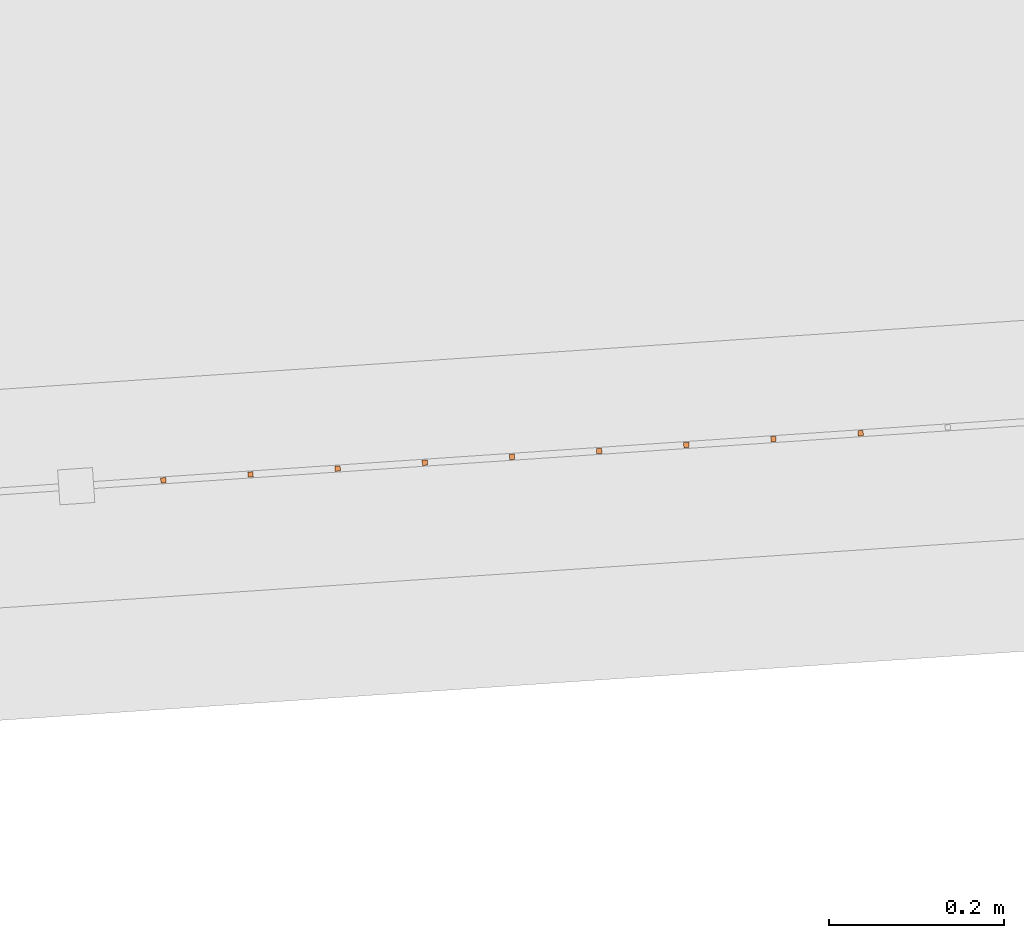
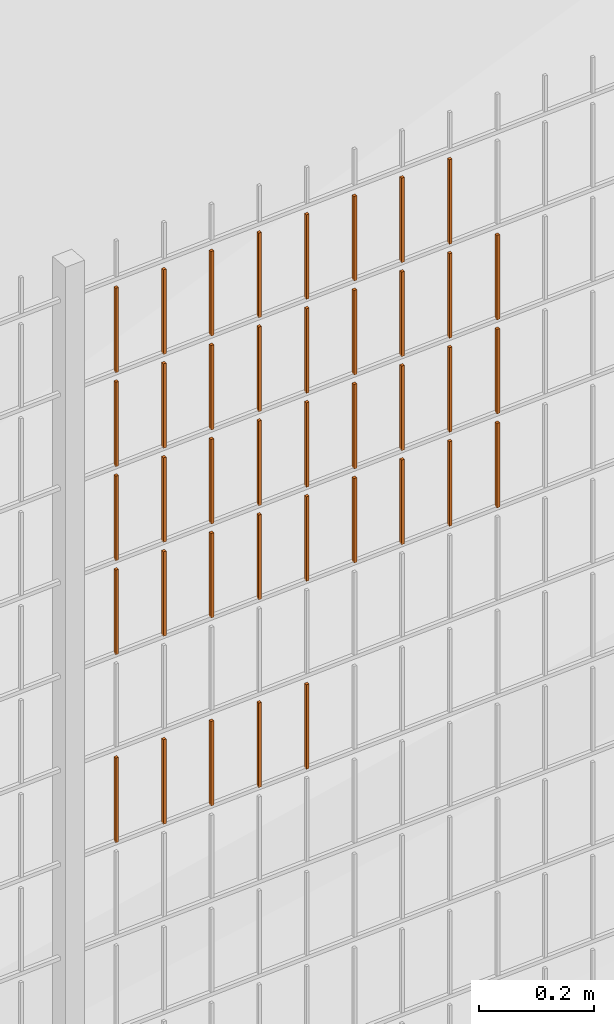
# One storey, part 84 of 1809: 40 proxies, 1 element without a shape of its own.
"""IFC2X3 building model written with IfcOpenShell, lengths in millimetres."""

from ifc_helpers import new_model, entity, si_unit, converted_unit, derived_unit, money_unit, direction, frame, origin_with_axes, place, context, subcontext, project, spatial, faceted_brep, source, transform, mapped, material, type_object, element, aggregate, save


model = new_model("IFC2X3")

# Units and contexts
model_context = context("Model", 3, precision=0.01, world=origin_with_axes(), true_north=direction((0.0, 1.0)))
body_context = subcontext(model_context, "Body", "Model", "MODEL_VIEW")
ifc_project = project(units=[si_unit("LENGTHUNIT", "METRE", prefix="MILLI"), si_unit("AREAUNIT", "SQUARE_METRE"), si_unit("VOLUMEUNIT", "CUBIC_METRE"), converted_unit("PLANEANGLEUNIT", "DEGREE", entity("IfcPlaneAngleMeasure", 0.0174532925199), si_unit("PLANEANGLEUNIT", "RADIAN"), dimensions=[0, 0, 0, 0, 0, 0, 0]), si_unit("SOLIDANGLEUNIT", "STERADIAN"), money_unit("EUR"), converted_unit("TIMEUNIT", "Year", entity("IfcTimeMeasure", 31556926.0), si_unit("TIMEUNIT", "SECOND"), dimensions=[0, 0, 1, 0, 0, 0, 0]), si_unit("MASSUNIT", "GRAM", prefix="KILO"), si_unit("THERMODYNAMICTEMPERATUREUNIT", "DEGREE_CELSIUS"), si_unit("LUMINOUSINTENSITYUNIT", "LUMEN"), si_unit("ENERGYUNIT", "JOULE", prefix="MEGA"), derived_unit("THERMALCONDUCTANCEUNIT", [(si_unit("POWERUNIT", "WATT"), 1), (si_unit("LENGTHUNIT", "METRE"), -1), (si_unit("THERMODYNAMICTEMPERATUREUNIT", "KELVIN"), -1)]), derived_unit("SPECIFICHEATCAPACITYUNIT", [(si_unit("ENERGYUNIT", "JOULE"), 1), (si_unit("MASSUNIT", "GRAM", prefix="KILO"), -1), (si_unit("THERMODYNAMICTEMPERATUREUNIT", "KELVIN"), -1)]), derived_unit("MASSDENSITYUNIT", [(si_unit("MASSUNIT", "GRAM", prefix="KILO"), 1), (si_unit("VOLUMEUNIT", "CUBIC_METRE"), -1)])], contexts=[model_context])

# Site, building, storey
site_placement = place(None, origin_with_axes())
site = spatial("IfcSite", under=ifc_project, at=site_placement, Name="Politse- ja Piirivalveameti ning Päästeameti ühishoone", CompositionType="ELEMENT")
building_placement = place(site_placement, origin_with_axes())
building = spatial("IfcBuilding", under=site, at=building_placement, Name="Politse- ja Piirivalveameti ning Päästeameti ühishoone", CompositionType="ELEMENT")
storey_placement = place(building_placement, origin_with_axes())
storey = spatial("IfcBuildingStorey", under=building, at=storey_placement, Name="Esimene korrus", CompositionType="ELEMENT", Elevation=0.0)

# Proxies
building_element_proxy_type_1 = type_object("IfcBuildingElementProxyType", Name="Railing Type", PredefinedType="NOTDEFINED")
proxy_1_placement = place(storey_placement, frame((89252.001212, -29183.4766571, 203.661247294), z_axis=(0.0, 0.0, 1.0), x_axis=(1.0, 0.0, 0.0)))
proxy_1 = element("IfcBuildingElementProxy", 1, at=proxy_1_placement, inside=storey, type_object=building_element_proxy_type_1, Name="PIIRDEAED")
ifc_material = material(Name="ET-03_Raud")
building_element_proxy_type_2 = type_object("IfcBuildingElementProxyType", Name="IfcBuildingElementProxy", PredefinedType="NOTDEFINED")
shared_shape_1 = source(origin_with_axes(), body_context, "Body", "Brep", [
    faceted_brep([(3.0, 3.0, -0.000752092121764), (-3.0, 3.0, -0.000752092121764), (-3.0, 3.0, 179.99926046), (3.0, 3.0, 179.99926046), (3.0, -3.0, 0.000752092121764), (-3.0, -3.0, 0.000752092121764), (-3.0, -3.0, 180.000764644), (3.0, -3.0, 180.000764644)], [[[0, 1, 2, 3]], [[0, 4, 5, 1]], [[1, 5, 6, 2]], [[3, 2, 6, 7]], [[4, 0, 3, 7]], [[5, 4, 7, 6]]]),
])
proxy_2_placement = place(proxy_1_placement, frame((-101595.188073, -24160.1463095, 801.706702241), z_axis=(0.0, 0.0, 1.0), x_axis=(1.0, 0.0, 0.0)))
proxy_2 = element("IfcBuildingElementProxy", 2, at=proxy_2_placement, type_object=building_element_proxy_type_2, material=ifc_material, Name="BALUSTER - 001", context=body_context, shape_type="MappedRepresentation", body=[
    mapped(shared_shape_1, transform((0.0, 0.0, 0.0), x_axis=(-0.0673926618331, 0.997726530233, 0.0), y_axis=(-0.997726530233, -0.0673926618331, 0.0), z_axis=(0.0, 0.0, 1.0))),
])
proxy_3_placement = place(proxy_1_placement, frame((-101994.278685, -24187.1033743, 801.606423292), z_axis=(0.0, 0.0, 1.0), x_axis=(1.0, 0.0, 0.0)))
proxy_3 = element("IfcBuildingElementProxy", 3, at=proxy_3_placement, type_object=building_element_proxy_type_2, material=ifc_material, Name="BALUSTER - 001", context=body_context, shape_type="MappedRepresentation", body=[
    mapped(shared_shape_1, transform((0.0, 0.0, 0.0), x_axis=(-0.0673926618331, 0.997726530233, 0.0), y_axis=(-0.997726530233, -0.0673926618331, 0.0), z_axis=(0.0, 0.0, 1.0))),
])
proxy_4_placement = place(proxy_1_placement, frame((-101894.506032, -24180.3641081, 1201.63149303), z_axis=(0.0, 0.0, 1.0), x_axis=(1.0, 0.0, 0.0)))
proxy_4 = element("IfcBuildingElementProxy", 4, at=proxy_4_placement, type_object=building_element_proxy_type_2, material=ifc_material, Name="BALUSTER - 001", context=body_context, shape_type="MappedRepresentation", body=[
    mapped(shared_shape_1, transform((0.0, 0.0, 0.0), x_axis=(-0.0673926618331, 0.997726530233, 0.0), y_axis=(-0.997726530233, -0.0673926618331, 0.0), z_axis=(0.0, 0.0, 1.0))),
])
shared_shape_2 = source(origin_with_axes(), body_context, "Body", "Brep", [
    faceted_brep([(3.0, 3.0, -0.000752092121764), (-3.0, 3.0, -0.000752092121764), (-3.0, 3.0, 179.99926046), (3.0, 3.0, 179.99926046), (3.0, -3.0, 0.000752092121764), (-3.0, -3.0, 0.000752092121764), (-3.0, -3.0, 180.000764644), (3.0, -3.0, 180.000764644)], [[[0, 1, 2, 3]], [[0, 4, 5, 1]], [[1, 5, 6, 2]], [[3, 2, 6, 7]], [[4, 0, 3, 7]], [[5, 4, 7, 6]]]),
])
proxy_5_placement = place(proxy_1_placement, frame((-101894.506032, -24180.3641081, 1401.63149303), z_axis=(0.0, 0.0, 1.0), x_axis=(1.0, 0.0, 0.0)))
proxy_5 = element("IfcBuildingElementProxy", 5, at=proxy_5_placement, type_object=building_element_proxy_type_2, material=ifc_material, Name="BALUSTER - 001", context=body_context, shape_type="MappedRepresentation", body=[
    mapped(shared_shape_2, transform((0.0, 0.0, 0.0), x_axis=(-0.0673926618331, 0.997726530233, 0.0), y_axis=(-0.997726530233, -0.0673926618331, 0.0), z_axis=(0.0, 0.0, 1.0))),
])
proxy_6_placement = place(proxy_1_placement, frame((-101894.506032, -24180.3641081, 1601.63149303), z_axis=(0.0, 0.0, 1.0), x_axis=(1.0, 0.0, 0.0)))
proxy_6 = element("IfcBuildingElementProxy", 6, at=proxy_6_placement, type_object=building_element_proxy_type_2, material=ifc_material, Name="BALUSTER - 001", context=body_context, shape_type="MappedRepresentation", body=[
    mapped(shared_shape_2, transform((0.0, 0.0, 0.0), x_axis=(-0.0673926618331, 0.997726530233, 0.0), y_axis=(-0.997726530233, -0.0673926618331, 0.0), z_axis=(0.0, 0.0, 1.0))),
])
shared_shape_3 = source(origin_with_axes(), body_context, "Body", "Brep", [
    faceted_brep([(3.0, 3.0, -0.000752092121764), (-3.0, 3.0, -0.000752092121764), (-3.0, 3.0, 179.99926046), (3.0, 3.0, 179.99926046), (3.0, -3.0, 0.000752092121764), (-3.0, -3.0, 0.000752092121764), (-3.0, -3.0, 180.000764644), (3.0, -3.0, 180.000764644)], [[[0, 1, 2, 3]], [[0, 4, 5, 1]], [[1, 5, 6, 2]], [[3, 2, 6, 7]], [[4, 0, 3, 7]], [[5, 4, 7, 6]]]),
])
proxy_7_placement = place(proxy_1_placement, frame((-101694.960726, -24166.8855757, 801.681632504), z_axis=(0.0, 0.0, 1.0), x_axis=(1.0, 0.0, 0.0)))
proxy_7 = element("IfcBuildingElementProxy", 7, at=proxy_7_placement, type_object=building_element_proxy_type_2, material=ifc_material, Name="BALUSTER - 001", context=body_context, shape_type="MappedRepresentation", body=[
    mapped(shared_shape_3, transform((0.0, 0.0, 0.0), x_axis=(-0.0673926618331, 0.997726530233, 0.0), y_axis=(-0.997726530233, -0.0673926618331, 0.0), z_axis=(0.0, 0.0, 1.0))),
])
proxy_8_placement = place(proxy_1_placement, frame((-101495.41542, -24153.4070433, 1201.73177198), z_axis=(0.0, 0.0, 1.0), x_axis=(1.0, 0.0, 0.0)))
proxy_8 = element("IfcBuildingElementProxy", 8, at=proxy_8_placement, type_object=building_element_proxy_type_2, material=ifc_material, Name="BALUSTER - 001", context=body_context, shape_type="MappedRepresentation", body=[
    mapped(shared_shape_3, transform((0.0, 0.0, 0.0), x_axis=(-0.0673926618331, 0.997726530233, 0.0), y_axis=(-0.997726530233, -0.0673926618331, 0.0), z_axis=(0.0, 0.0, 1.0))),
])
proxy_9_placement = place(proxy_1_placement, frame((-101794.733379, -24173.6248419, 1201.65656277), z_axis=(0.0, 0.0, 1.0), x_axis=(1.0, 0.0, 0.0)))
proxy_9 = element("IfcBuildingElementProxy", 9, at=proxy_9_placement, type_object=building_element_proxy_type_2, material=ifc_material, Name="BALUSTER - 001", context=body_context, shape_type="MappedRepresentation", body=[
    mapped(shared_shape_3, transform((0.0, 0.0, 0.0), x_axis=(-0.0673926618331, 0.997726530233, 0.0), y_axis=(-0.997726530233, -0.0673926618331, 0.0), z_axis=(0.0, 0.0, 1.0))),
])
proxy_10_placement = place(proxy_1_placement, frame((-101894.506032, -24180.3641081, 1801.63149303), z_axis=(0.0, 0.0, 1.0), x_axis=(1.0, 0.0, 0.0)))
proxy_10 = element("IfcBuildingElementProxy", 10, at=proxy_10_placement, type_object=building_element_proxy_type_2, material=ifc_material, Name="BALUSTER - 001", context=body_context, shape_type="MappedRepresentation", body=[
    mapped(shared_shape_3, transform((0.0, 0.0, 0.0), x_axis=(-0.0673926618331, 0.997726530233, 0.0), y_axis=(-0.997726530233, -0.0673926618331, 0.0), z_axis=(0.0, 0.0, 1.0))),
])
shared_shape_4 = source(origin_with_axes(), body_context, "Body", "Brep", [
    faceted_brep([(3.0, 3.0, -0.000752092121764), (-3.0, 3.0, -0.000752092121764), (-3.0, 3.0, 179.99926046), (3.0, 3.0, 179.99926046), (3.0, -3.0, 0.000752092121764), (-3.0, -3.0, 0.000752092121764), (-3.0, -3.0, 180.000764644), (3.0, -3.0, 180.000764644)], [[[0, 1, 2, 3]], [[0, 4, 5, 1]], [[1, 5, 6, 2]], [[3, 2, 6, 7]], [[4, 0, 3, 7]], [[5, 4, 7, 6]]]),
])
proxy_11_placement = place(proxy_1_placement, frame((-101495.41542, -24153.4070433, 1801.73177198), z_axis=(0.0, 0.0, 1.0), x_axis=(1.0, 0.0, 0.0)))
proxy_11 = element("IfcBuildingElementProxy", 11, at=proxy_11_placement, type_object=building_element_proxy_type_2, material=ifc_material, Name="BALUSTER - 001", context=body_context, shape_type="MappedRepresentation", body=[
    mapped(shared_shape_4, transform((0.0, 0.0, 0.0), x_axis=(-0.0673926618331, 0.997726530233, 0.0), y_axis=(-0.997726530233, -0.0673926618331, 0.0), z_axis=(0.0, 0.0, 1.0))),
])
proxy_12_placement = place(proxy_1_placement, frame((-101794.733379, -24173.6248419, 1801.65656277), z_axis=(0.0, 0.0, 1.0), x_axis=(1.0, 0.0, 0.0)))
proxy_12 = element("IfcBuildingElementProxy", 12, at=proxy_12_placement, type_object=building_element_proxy_type_2, material=ifc_material, Name="BALUSTER - 001", context=body_context, shape_type="MappedRepresentation", body=[
    mapped(shared_shape_4, transform((0.0, 0.0, 0.0), x_axis=(-0.0673926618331, 0.997726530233, 0.0), y_axis=(-0.997726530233, -0.0673926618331, 0.0), z_axis=(0.0, 0.0, 1.0))),
])
shared_shape_5 = source(origin_with_axes(), body_context, "Body", "Brep", [
    faceted_brep([(3.0, 3.0, -0.000752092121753), (-3.0, 3.0, -0.000752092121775), (-3.0, 3.0, 179.99926046), (3.0, 3.0, 179.99926046), (3.0, -3.0, 0.000752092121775), (-3.0, -3.0, 0.000752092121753), (-3.0, -3.0, 180.000764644), (3.0, -3.0, 180.000764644)], [[[0, 1, 2, 3]], [[0, 4, 5, 1]], [[1, 5, 6, 2]], [[3, 2, 6, 7]], [[4, 0, 3, 7]], [[5, 4, 7, 6]]]),
])
proxy_13_placement = place(proxy_1_placement, frame((-101894.506032, -24180.3641081, 801.631493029), z_axis=(0.0, 0.0, 1.0), x_axis=(1.0, 0.0, 0.0)))
proxy_13 = element("IfcBuildingElementProxy", 13, at=proxy_13_placement, type_object=building_element_proxy_type_2, material=ifc_material, Name="BALUSTER - 001", context=body_context, shape_type="MappedRepresentation", body=[
    mapped(shared_shape_5, transform((0.0, 0.0, 0.0), x_axis=(-0.0673926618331, 0.997726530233, 0.0), y_axis=(-0.997726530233, -0.0673926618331, 0.0), z_axis=(0.0, 0.0, 1.0))),
])
proxy_14_placement = place(proxy_1_placement, frame((-101295.870114, -24139.928511, 1201.78191145), z_axis=(0.0, 0.0, 1.0), x_axis=(1.0, 0.0, 0.0)))
proxy_14 = element("IfcBuildingElementProxy", 14, at=proxy_14_placement, type_object=building_element_proxy_type_2, material=ifc_material, Name="BALUSTER - 001", context=body_context, shape_type="MappedRepresentation", body=[
    mapped(shared_shape_5, transform((0.0, 0.0, 0.0), x_axis=(-0.0673926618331, 0.997726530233, 0.0), y_axis=(-0.997726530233, -0.0673926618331, 0.0), z_axis=(0.0, 0.0, 1.0))),
])
proxy_15_placement = place(proxy_1_placement, frame((-101595.188073, -24160.1463095, 1201.70670224), z_axis=(0.0, 0.0, 1.0), x_axis=(1.0, 0.0, 0.0)))
proxy_15 = element("IfcBuildingElementProxy", 15, at=proxy_15_placement, type_object=building_element_proxy_type_2, material=ifc_material, Name="BALUSTER - 001", context=body_context, shape_type="MappedRepresentation", body=[
    mapped(shared_shape_5, transform((0.0, 0.0, 0.0), x_axis=(-0.0673926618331, 0.997726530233, 0.0), y_axis=(-0.997726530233, -0.0673926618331, 0.0), z_axis=(0.0, 0.0, 1.0))),
])
proxy_16_placement = place(proxy_1_placement, frame((-101994.278685, -24187.1033743, 1201.60642329), z_axis=(0.0, 0.0, 1.0), x_axis=(1.0, 0.0, 0.0)))
proxy_16 = element("IfcBuildingElementProxy", 16, at=proxy_16_placement, type_object=building_element_proxy_type_2, material=ifc_material, Name="BALUSTER - 001", context=body_context, shape_type="MappedRepresentation", body=[
    mapped(shared_shape_5, transform((0.0, 0.0, 0.0), x_axis=(-0.0673926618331, 0.997726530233, 0.0), y_axis=(-0.997726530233, -0.0673926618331, 0.0), z_axis=(0.0, 0.0, 1.0))),
])
shared_shape_6 = source(origin_with_axes(), body_context, "Body", "Brep", [
    faceted_brep([(3.0, 3.0, -0.000752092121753), (-3.0, 3.0, -0.000752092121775), (-3.0, 3.0, 179.99926046), (3.0, 3.0, 179.99926046), (3.0, -3.0, 0.000752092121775), (-3.0, -3.0, 0.000752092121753), (-3.0, -3.0, 180.000764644), (3.0, -3.0, 180.000764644)], [[[0, 1, 2, 3]], [[0, 4, 5, 1]], [[1, 5, 6, 2]], [[3, 2, 6, 7]], [[4, 0, 3, 7]], [[5, 4, 7, 6]]]),
])
proxy_17_placement = place(proxy_1_placement, frame((-101395.642767, -24146.6677772, 1801.75684172), z_axis=(0.0, 0.0, 1.0), x_axis=(1.0, 0.0, 0.0)))
proxy_17 = element("IfcBuildingElementProxy", 17, at=proxy_17_placement, type_object=building_element_proxy_type_2, material=ifc_material, Name="BALUSTER - 001", context=body_context, shape_type="MappedRepresentation", body=[
    mapped(shared_shape_6, transform((0.0, 0.0, 0.0), x_axis=(-0.0673926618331, 0.997726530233, 0.0), y_axis=(-0.997726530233, -0.0673926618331, 0.0), z_axis=(0.0, 0.0, 1.0))),
])
proxy_18_placement = place(proxy_1_placement, frame((-101694.960726, -24166.8855757, 1801.6816325), z_axis=(0.0, 0.0, 1.0), x_axis=(1.0, 0.0, 0.0)))
proxy_18 = element("IfcBuildingElementProxy", 18, at=proxy_18_placement, type_object=building_element_proxy_type_2, material=ifc_material, Name="BALUSTER - 001", context=body_context, shape_type="MappedRepresentation", body=[
    mapped(shared_shape_6, transform((0.0, 0.0, 0.0), x_axis=(-0.0673926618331, 0.997726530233, 0.0), y_axis=(-0.997726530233, -0.0673926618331, 0.0), z_axis=(0.0, 0.0, 1.0))),
])
proxy_19_placement = place(proxy_1_placement, frame((-101994.278685, -24187.1033743, 1801.60642329), z_axis=(0.0, 0.0, 1.0), x_axis=(1.0, 0.0, 0.0)))
proxy_19 = element("IfcBuildingElementProxy", 19, at=proxy_19_placement, type_object=building_element_proxy_type_2, material=ifc_material, Name="BALUSTER - 001", context=body_context, shape_type="MappedRepresentation", body=[
    mapped(shared_shape_6, transform((0.0, 0.0, 0.0), x_axis=(-0.0673926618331, 0.997726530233, 0.0), y_axis=(-0.997726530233, -0.0673926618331, 0.0), z_axis=(0.0, 0.0, 1.0))),
])
shared_shape_7 = source(origin_with_axes(), body_context, "Body", "Brep", [
    faceted_brep([(3.0, 3.0, -0.000752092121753), (-3.0, 3.0, -0.000752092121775), (-3.0, 3.0, 179.99926046), (3.0, 3.0, 179.99926046), (3.0, -3.0, 0.000752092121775), (-3.0, -3.0, 0.000752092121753), (-3.0, -3.0, 180.000764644), (3.0, -3.0, 180.000764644)], [[[0, 1, 2, 3]], [[0, 4, 5, 1]], [[1, 5, 6, 2]], [[3, 2, 6, 7]], [[4, 0, 3, 7]], [[5, 4, 7, 6]]]),
])
proxy_20_placement = place(proxy_1_placement, frame((-101295.870114, -24139.928511, 1401.78191145), z_axis=(0.0, 0.0, 1.0), x_axis=(1.0, 0.0, 0.0)))
proxy_20 = element("IfcBuildingElementProxy", 20, at=proxy_20_placement, type_object=building_element_proxy_type_2, material=ifc_material, Name="BALUSTER - 001", context=body_context, shape_type="MappedRepresentation", body=[
    mapped(shared_shape_7, transform((0.0, 0.0, 0.0), x_axis=(-0.0673926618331, 0.997726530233, 0.0), y_axis=(-0.997726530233, -0.0673926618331, 0.0), z_axis=(0.0, 0.0, 1.0))),
])
proxy_21_placement = place(proxy_1_placement, frame((-101595.188073, -24160.1463095, 1401.70670224), z_axis=(0.0, 0.0, 1.0), x_axis=(1.0, 0.0, 0.0)))
proxy_21 = element("IfcBuildingElementProxy", 21, at=proxy_21_placement, type_object=building_element_proxy_type_2, material=ifc_material, Name="BALUSTER - 001", context=body_context, shape_type="MappedRepresentation", body=[
    mapped(shared_shape_7, transform((0.0, 0.0, 0.0), x_axis=(-0.0673926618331, 0.997726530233, 0.0), y_axis=(-0.997726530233, -0.0673926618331, 0.0), z_axis=(0.0, 0.0, 1.0))),
])
proxy_22_placement = place(proxy_1_placement, frame((-101994.278685, -24187.1033743, 1401.60642329), z_axis=(0.0, 0.0, 1.0), x_axis=(1.0, 0.0, 0.0)))
proxy_22 = element("IfcBuildingElementProxy", 22, at=proxy_22_placement, type_object=building_element_proxy_type_2, material=ifc_material, Name="BALUSTER - 001", context=body_context, shape_type="MappedRepresentation", body=[
    mapped(shared_shape_7, transform((0.0, 0.0, 0.0), x_axis=(-0.0673926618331, 0.997726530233, 0.0), y_axis=(-0.997726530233, -0.0673926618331, 0.0), z_axis=(0.0, 0.0, 1.0))),
])
proxy_23_placement = place(proxy_1_placement, frame((-101295.870114, -24139.928511, 1601.78191145), z_axis=(0.0, 0.0, 1.0), x_axis=(1.0, 0.0, 0.0)))
proxy_23 = element("IfcBuildingElementProxy", 23, at=proxy_23_placement, type_object=building_element_proxy_type_2, material=ifc_material, Name="BALUSTER - 001", context=body_context, shape_type="MappedRepresentation", body=[
    mapped(shared_shape_7, transform((0.0, 0.0, 0.0), x_axis=(-0.0673926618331, 0.997726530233, 0.0), y_axis=(-0.997726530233, -0.0673926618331, 0.0), z_axis=(0.0, 0.0, 1.0))),
])
proxy_24_placement = place(proxy_1_placement, frame((-101595.188073, -24160.1463095, 1601.70670224), z_axis=(0.0, 0.0, 1.0), x_axis=(1.0, 0.0, 0.0)))
proxy_24 = element("IfcBuildingElementProxy", 24, at=proxy_24_placement, type_object=building_element_proxy_type_2, material=ifc_material, Name="BALUSTER - 001", context=body_context, shape_type="MappedRepresentation", body=[
    mapped(shared_shape_7, transform((0.0, 0.0, 0.0), x_axis=(-0.0673926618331, 0.997726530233, 0.0), y_axis=(-0.997726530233, -0.0673926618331, 0.0), z_axis=(0.0, 0.0, 1.0))),
])
proxy_25_placement = place(proxy_1_placement, frame((-101994.278685, -24187.1033743, 1601.60642329), z_axis=(0.0, 0.0, 1.0), x_axis=(1.0, 0.0, 0.0)))
proxy_25 = element("IfcBuildingElementProxy", 25, at=proxy_25_placement, type_object=building_element_proxy_type_2, material=ifc_material, Name="BALUSTER - 001", context=body_context, shape_type="MappedRepresentation", body=[
    mapped(shared_shape_7, transform((0.0, 0.0, 0.0), x_axis=(-0.0673926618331, 0.997726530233, 0.0), y_axis=(-0.997726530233, -0.0673926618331, 0.0), z_axis=(0.0, 0.0, 1.0))),
])
shared_shape_8 = source(origin_with_axes(), body_context, "Body", "Brep", [
    faceted_brep([(3.0, 3.0, -0.000752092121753), (-3.0, 3.0, -0.000752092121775), (-3.0, 3.0, 179.99926046), (3.0, 3.0, 179.99926046), (3.0, -3.0, 0.000752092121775), (-3.0, -3.0, 0.000752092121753), (-3.0, -3.0, 180.000764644), (3.0, -3.0, 180.000764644)], [[[0, 1, 2, 3]], [[0, 4, 5, 1]], [[1, 5, 6, 2]], [[3, 2, 6, 7]], [[4, 0, 3, 7]], [[5, 4, 7, 6]]]),
])
proxy_26_placement = place(proxy_1_placement, frame((-101395.642767, -24146.6677772, 1201.75684172), z_axis=(0.0, 0.0, 1.0), x_axis=(1.0, 0.0, 0.0)))
proxy_26 = element("IfcBuildingElementProxy", 26, at=proxy_26_placement, type_object=building_element_proxy_type_2, material=ifc_material, Name="BALUSTER - 001", context=body_context, shape_type="MappedRepresentation", body=[
    mapped(shared_shape_8, transform((0.0, 0.0, 0.0), x_axis=(-0.0673926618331, 0.997726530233, 0.0), y_axis=(-0.997726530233, -0.0673926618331, 0.0), z_axis=(0.0, 0.0, 1.0))),
])
proxy_27_placement = place(proxy_1_placement, frame((-101694.960726, -24166.8855757, 1201.6816325), z_axis=(0.0, 0.0, 1.0), x_axis=(1.0, 0.0, 0.0)))
proxy_27 = element("IfcBuildingElementProxy", 27, at=proxy_27_placement, type_object=building_element_proxy_type_2, material=ifc_material, Name="BALUSTER - 001", context=body_context, shape_type="MappedRepresentation", body=[
    mapped(shared_shape_8, transform((0.0, 0.0, 0.0), x_axis=(-0.0673926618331, 0.997726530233, 0.0), y_axis=(-0.997726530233, -0.0673926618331, 0.0), z_axis=(0.0, 0.0, 1.0))),
])
proxy_28_placement = place(proxy_1_placement, frame((-101295.870114, -24139.928511, 1801.78191145), z_axis=(0.0, 0.0, 1.0), x_axis=(1.0, 0.0, 0.0)))
proxy_28 = element("IfcBuildingElementProxy", 28, at=proxy_28_placement, type_object=building_element_proxy_type_2, material=ifc_material, Name="BALUSTER - 001", context=body_context, shape_type="MappedRepresentation", body=[
    mapped(shared_shape_8, transform((0.0, 0.0, 0.0), x_axis=(-0.0673926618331, 0.997726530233, 0.0), y_axis=(-0.997726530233, -0.0673926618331, 0.0), z_axis=(0.0, 0.0, 1.0))),
])
proxy_29_placement = place(proxy_1_placement, frame((-101595.188073, -24160.1463095, 1801.70670224), z_axis=(0.0, 0.0, 1.0), x_axis=(1.0, 0.0, 0.0)))
proxy_29 = element("IfcBuildingElementProxy", 29, at=proxy_29_placement, type_object=building_element_proxy_type_2, material=ifc_material, Name="BALUSTER - 001", context=body_context, shape_type="MappedRepresentation", body=[
    mapped(shared_shape_8, transform((0.0, 0.0, 0.0), x_axis=(-0.0673926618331, 0.997726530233, 0.0), y_axis=(-0.997726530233, -0.0673926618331, 0.0), z_axis=(0.0, 0.0, 1.0))),
])
shared_shape_9 = source(origin_with_axes(), body_context, "Body", "Brep", [
    faceted_brep([(3.0, 3.0, -0.000752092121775), (-3.0, 3.0, -0.000752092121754), (-3.0, 3.0, 179.99926046), (3.0, 3.0, 179.99926046), (3.0, -3.0, 0.000752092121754), (-3.0, -3.0, 0.000752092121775), (-3.0, -3.0, 180.000764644), (3.0, -3.0, 180.000764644)], [[[0, 1, 2, 3]], [[0, 4, 5, 1]], [[1, 5, 6, 2]], [[3, 2, 6, 7]], [[4, 0, 3, 7]], [[5, 4, 7, 6]]]),
])
proxy_30_placement = place(proxy_1_placement, frame((-101794.733379, -24173.6248419, 801.656562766), z_axis=(0.0, 0.0, 1.0), x_axis=(1.0, 0.0, 0.0)))
proxy_30 = element("IfcBuildingElementProxy", 30, at=proxy_30_placement, type_object=building_element_proxy_type_2, material=ifc_material, Name="BALUSTER - 001", context=body_context, shape_type="MappedRepresentation", body=[
    mapped(shared_shape_9, transform((0.0, 0.0, 0.0), x_axis=(-0.0673926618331, 0.997726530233, 0.0), y_axis=(-0.997726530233, -0.0673926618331, 0.0), z_axis=(0.0, 0.0, 1.0))),
])
shared_shape_10 = source(origin_with_axes(), body_context, "Body", "Brep", [
    faceted_brep([(3.0, 3.0, -0.000752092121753), (-3.0, 3.0, -0.000752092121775), (-3.0, 3.0, 179.99926046), (3.0, 3.0, 179.99926046), (3.0, -3.0, 0.000752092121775), (-3.0, -3.0, 0.000752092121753), (-3.0, -3.0, 180.000764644), (3.0, -3.0, 180.000764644)], [[[0, 1, 2, 3]], [[0, 4, 5, 1]], [[1, 5, 6, 2]], [[3, 2, 6, 7]], [[4, 0, 3, 7]], [[5, 4, 7, 6]]]),
])
proxy_31_placement = place(proxy_1_placement, frame((-101395.642767, -24146.6677772, 1401.75684172), z_axis=(0.0, 0.0, 1.0), x_axis=(1.0, 0.0, 0.0)))
proxy_31 = element("IfcBuildingElementProxy", 31, at=proxy_31_placement, type_object=building_element_proxy_type_2, material=ifc_material, Name="BALUSTER - 001", context=body_context, shape_type="MappedRepresentation", body=[
    mapped(shared_shape_10, transform((0.0, 0.0, 0.0), x_axis=(-0.0673926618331, 0.997726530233, 0.0), y_axis=(-0.997726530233, -0.0673926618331, 0.0), z_axis=(0.0, 0.0, 1.0))),
])
proxy_32_placement = place(proxy_1_placement, frame((-101694.960726, -24166.8855757, 1401.6816325), z_axis=(0.0, 0.0, 1.0), x_axis=(1.0, 0.0, 0.0)))
proxy_32 = element("IfcBuildingElementProxy", 32, at=proxy_32_placement, type_object=building_element_proxy_type_2, material=ifc_material, Name="BALUSTER - 001", context=body_context, shape_type="MappedRepresentation", body=[
    mapped(shared_shape_10, transform((0.0, 0.0, 0.0), x_axis=(-0.0673926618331, 0.997726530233, 0.0), y_axis=(-0.997726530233, -0.0673926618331, 0.0), z_axis=(0.0, 0.0, 1.0))),
])
proxy_33_placement = place(proxy_1_placement, frame((-101395.642767, -24146.6677772, 1601.75684172), z_axis=(0.0, 0.0, 1.0), x_axis=(1.0, 0.0, 0.0)))
proxy_33 = element("IfcBuildingElementProxy", 33, at=proxy_33_placement, type_object=building_element_proxy_type_2, material=ifc_material, Name="BALUSTER - 001", context=body_context, shape_type="MappedRepresentation", body=[
    mapped(shared_shape_10, transform((0.0, 0.0, 0.0), x_axis=(-0.0673926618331, 0.997726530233, 0.0), y_axis=(-0.997726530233, -0.0673926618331, 0.0), z_axis=(0.0, 0.0, 1.0))),
])
proxy_34_placement = place(proxy_1_placement, frame((-101694.960726, -24166.8855757, 1601.6816325), z_axis=(0.0, 0.0, 1.0), x_axis=(1.0, 0.0, 0.0)))
proxy_34 = element("IfcBuildingElementProxy", 34, at=proxy_34_placement, type_object=building_element_proxy_type_2, material=ifc_material, Name="BALUSTER - 001", context=body_context, shape_type="MappedRepresentation", body=[
    mapped(shared_shape_10, transform((0.0, 0.0, 0.0), x_axis=(-0.0673926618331, 0.997726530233, 0.0), y_axis=(-0.997726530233, -0.0673926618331, 0.0), z_axis=(0.0, 0.0, 1.0))),
])
shared_shape_11 = source(origin_with_axes(), body_context, "Body", "Brep", [
    faceted_brep([(3.0, 3.0, -0.000752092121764), (-3.0, 3.0, -0.000752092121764), (-3.0, 3.0, 179.99926046), (3.0, 3.0, 179.99926046), (3.0, -3.0, 0.000752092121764), (-3.0, -3.0, 0.000752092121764), (-3.0, -3.0, 180.000764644), (3.0, -3.0, 180.000764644)], [[[0, 1, 2, 3]], [[0, 4, 5, 1]], [[1, 5, 6, 2]], [[3, 2, 6, 7]], [[4, 0, 3, 7]], [[5, 4, 7, 6]]]),
])
proxy_35_placement = place(proxy_1_placement, frame((-101495.41542, -24153.4070433, 1401.73177198), z_axis=(0.0, 0.0, 1.0), x_axis=(1.0, 0.0, 0.0)))
proxy_35 = element("IfcBuildingElementProxy", 35, at=proxy_35_placement, type_object=building_element_proxy_type_2, material=ifc_material, Name="BALUSTER - 001", context=body_context, shape_type="MappedRepresentation", body=[
    mapped(shared_shape_11, transform((0.0, 0.0, 0.0), x_axis=(-0.0673926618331, 0.997726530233, 0.0), y_axis=(-0.997726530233, -0.0673926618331, 0.0), z_axis=(0.0, 0.0, 1.0))),
])
proxy_36_placement = place(proxy_1_placement, frame((-101794.733379, -24173.6248419, 1401.65656277), z_axis=(0.0, 0.0, 1.0), x_axis=(1.0, 0.0, 0.0)))
proxy_36 = element("IfcBuildingElementProxy", 36, at=proxy_36_placement, type_object=building_element_proxy_type_2, material=ifc_material, Name="BALUSTER - 001", context=body_context, shape_type="MappedRepresentation", body=[
    mapped(shared_shape_11, transform((0.0, 0.0, 0.0), x_axis=(-0.0673926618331, 0.997726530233, 0.0), y_axis=(-0.997726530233, -0.0673926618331, 0.0), z_axis=(0.0, 0.0, 1.0))),
])
proxy_37_placement = place(proxy_1_placement, frame((-101495.41542, -24153.4070433, 1601.73177198), z_axis=(0.0, 0.0, 1.0), x_axis=(1.0, 0.0, 0.0)))
proxy_37 = element("IfcBuildingElementProxy", 37, at=proxy_37_placement, type_object=building_element_proxy_type_2, material=ifc_material, Name="BALUSTER - 001", context=body_context, shape_type="MappedRepresentation", body=[
    mapped(shared_shape_11, transform((0.0, 0.0, 0.0), x_axis=(-0.0673926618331, 0.997726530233, 0.0), y_axis=(-0.997726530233, -0.0673926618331, 0.0), z_axis=(0.0, 0.0, 1.0))),
])
proxy_38_placement = place(proxy_1_placement, frame((-101794.733379, -24173.6248419, 1601.65656277), z_axis=(0.0, 0.0, 1.0), x_axis=(1.0, 0.0, 0.0)))
proxy_38 = element("IfcBuildingElementProxy", 38, at=proxy_38_placement, type_object=building_element_proxy_type_2, material=ifc_material, Name="BALUSTER - 001", context=body_context, shape_type="MappedRepresentation", body=[
    mapped(shared_shape_11, transform((0.0, 0.0, 0.0), x_axis=(-0.0673926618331, 0.997726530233, 0.0), y_axis=(-0.997726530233, -0.0673926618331, 0.0), z_axis=(0.0, 0.0, 1.0))),
])
shared_shape_12 = source(origin_with_axes(), body_context, "Body", "Brep", [
    faceted_brep([(3.0, 3.0, -0.000752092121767), (-3.0, 3.0, -0.000752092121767), (-3.0, 3.0, 179.99926046), (3.0, 3.0, 179.99926046), (3.0, -3.0, 0.000752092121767), (-3.0, -3.0, 0.000752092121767), (-3.0, -3.0, 180.000764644), (3.0, -3.0, 180.000764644)], [[[0, 1, 2, 3]], [[0, 4, 5, 1]], [[1, 5, 6, 2]], [[3, 2, 6, 7]], [[4, 0, 3, 7]], [[5, 4, 7, 6]]]),
])
proxy_39_placement = place(proxy_1_placement, frame((-101196.097461, -24133.1892448, 1201.80698119), z_axis=(0.0, 0.0, 1.0), x_axis=(1.0, 0.0, 0.0)))
proxy_39 = element("IfcBuildingElementProxy", 39, at=proxy_39_placement, type_object=building_element_proxy_type_2, material=ifc_material, Name="BALUSTER - 001", context=body_context, shape_type="MappedRepresentation", body=[
    mapped(shared_shape_12, transform((0.0, 0.0, 0.0), x_axis=(-0.0673926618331, 0.997726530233, 0.0), y_axis=(-0.997726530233, -0.0673926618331, 0.0), z_axis=(0.0, 0.0, 1.0))),
])
shared_shape_13 = source(origin_with_axes(), body_context, "Body", "Brep", [
    faceted_brep([(3.0, 3.0, -0.000752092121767), (-3.0, 3.0, -0.000752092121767), (-3.0, 3.0, 179.99926046), (3.0, 3.0, 179.99926046), (3.0, -3.0, 0.000752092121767), (-3.0, -3.0, 0.000752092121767), (-3.0, -3.0, 180.000764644), (3.0, -3.0, 180.000764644)], [[[0, 1, 2, 3]], [[0, 4, 5, 1]], [[1, 5, 6, 2]], [[3, 2, 6, 7]], [[4, 0, 3, 7]], [[5, 4, 7, 6]]]),
])
proxy_40_placement = place(proxy_1_placement, frame((-101196.097461, -24133.1892448, 1401.80698119), z_axis=(0.0, 0.0, 1.0), x_axis=(1.0, 0.0, 0.0)))
proxy_40 = element("IfcBuildingElementProxy", 40, at=proxy_40_placement, type_object=building_element_proxy_type_2, material=ifc_material, Name="BALUSTER - 001", context=body_context, shape_type="MappedRepresentation", body=[
    mapped(shared_shape_13, transform((0.0, 0.0, 0.0), x_axis=(-0.0673926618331, 0.997726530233, 0.0), y_axis=(-0.997726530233, -0.0673926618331, 0.0), z_axis=(0.0, 0.0, 1.0))),
])
proxy_41_placement = place(proxy_1_placement, frame((-101196.097461, -24133.1892448, 1601.80698119), z_axis=(0.0, 0.0, 1.0), x_axis=(1.0, 0.0, 0.0)))
proxy_41 = element("IfcBuildingElementProxy", 41, at=proxy_41_placement, type_object=building_element_proxy_type_2, material=ifc_material, Name="BALUSTER - 001", context=body_context, shape_type="MappedRepresentation", body=[
    mapped(shared_shape_13, transform((0.0, 0.0, 0.0), x_axis=(-0.0673926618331, 0.997726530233, 0.0), y_axis=(-0.997726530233, -0.0673926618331, 0.0), z_axis=(0.0, 0.0, 1.0))),
])
aggregate(proxy_1, [proxy_2, proxy_7, proxy_30, proxy_13, proxy_3, proxy_39, proxy_14, proxy_26, proxy_8, proxy_15, proxy_27, proxy_9, proxy_4, proxy_16, proxy_40, proxy_20, proxy_31, proxy_35, proxy_21, proxy_32, proxy_36, proxy_5, proxy_22, proxy_41, proxy_23, proxy_33, proxy_37, proxy_24, proxy_34, proxy_38, proxy_6, proxy_25, proxy_28, proxy_17, proxy_11, proxy_29, proxy_18, proxy_12, proxy_10, proxy_19])

save(model, "model.ifc")
